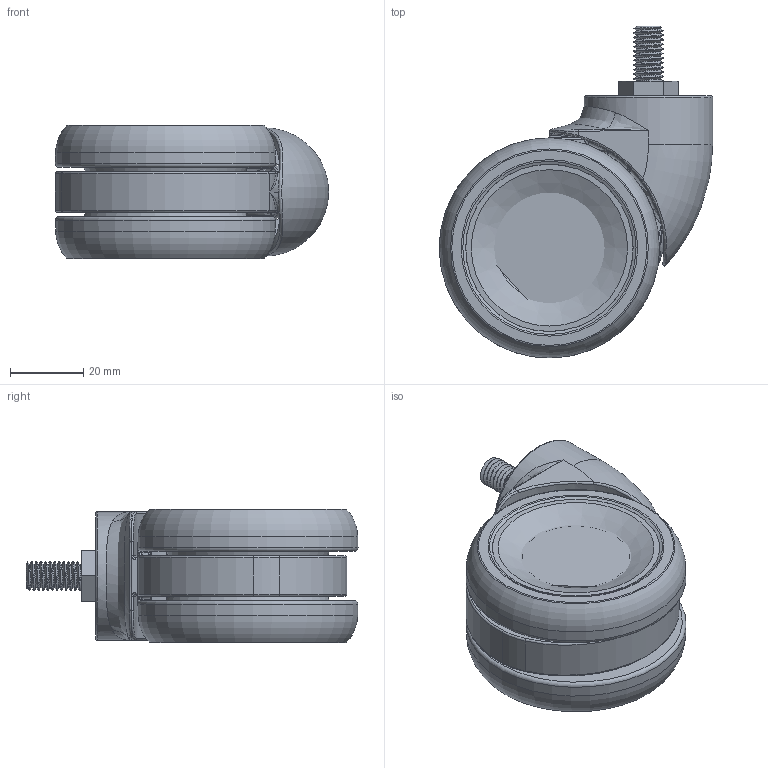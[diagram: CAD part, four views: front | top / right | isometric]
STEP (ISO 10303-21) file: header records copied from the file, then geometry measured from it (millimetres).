
FILE_DESCRIPTION (( 'STEP AP203' ), '1' );
FILE_NAME ('K09U中空キャスター(M8).STEP', '2025-04-09T04:56:14', ( '' ), ( '' ), 'SwSTEP 2.0', 'SolidWorks 2025', '' );
FILE_SCHEMA (( 'CONFIG_CONTROL_DESIGN' ));
Length unit declared in the file: millimetre
Products named in the file (5): K09U中空キャスター(M8); TPU車輪; 35カバー_2; 本体; M8縦軸
Assembly tree (5 placements, depth 2):
  K09U中空キャスター(M8)
    本体
    M8縦軸
    TPU車輪  x2
    35カバー_2
Bounding box: 74.5 x 90.5 x 36.4 mm (x, y, z)
Volume: 84440.6 mm3; surface area: 62348.4 mm2
Topology: 9 solids, 10 shells, 721 faces, 1965 edges, 1180 vertices
Faces by surface type: plane 271, cylinder 146, bspline 121, torus 93, cone 58, sphere 32
Full cylindrical faces by diameter (mm): 2.3 x45, 7.7 x1, 9 x2, 9.4 x2, 15.6 x1, 16 x2, 16.2 x1, 17 x1, 34 x2, 34.95 x1, 35 x2, 36 x4, 36.4 x4, 38.35 x3, 44.15 x3, 46 x2, 46.95 x1, 47 x1, 54.897 x4
Entity records: 26529 total; most frequent: CARTESIAN_POINT 12715, ORIENTED_EDGE 2776, DIRECTION 2569, EDGE_CURVE 1388, AXIS2_PLACEMENT_3D 1129, VERTEX_POINT 906, EDGE_LOOP 862, FACE_OUTER_BOUND 705
